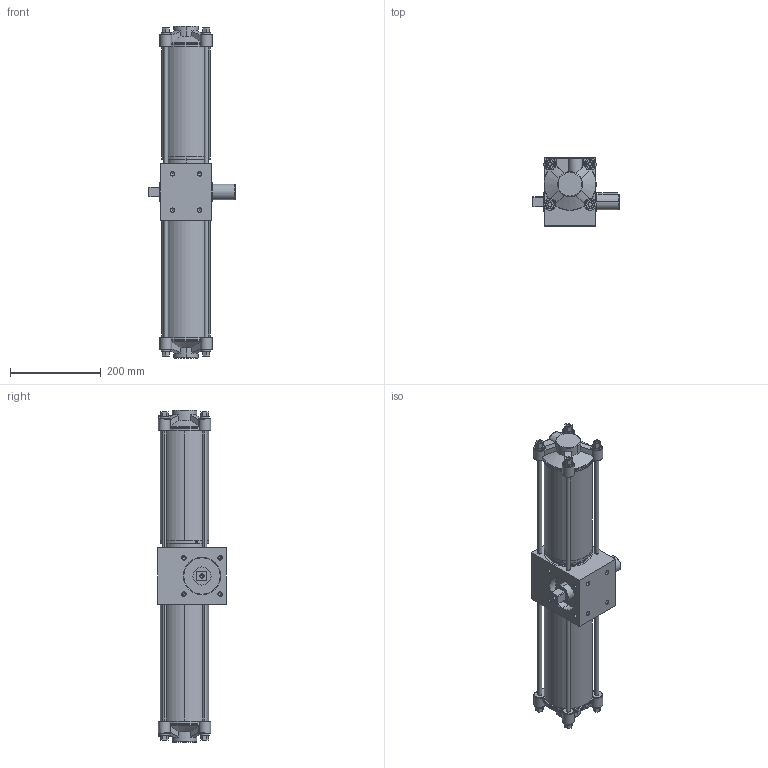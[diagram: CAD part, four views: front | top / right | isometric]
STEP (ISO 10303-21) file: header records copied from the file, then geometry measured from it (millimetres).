
FILE_DESCRIPTION((''),'2;1');
FILE_NAME('0822935229_ASM','2015-04-14T',('mla1hc'),(''),'PRO/ENGINEER BY PARAMETRIC TECHNOLOGY CORPORATION, 2011490','PRO/ENGINEER BY PARAMETRIC TECHNOLOGY CORPORATION, 2011490','');
FILE_SCHEMA(('AUTOMOTIVE_DESIGN_CC2 { 1 2 10303 214 -1 1 5 2 }'));
Length unit declared in the file: millimetre
Products named in the file (4): 0822935229-A; SG-TRR-100-B; SG-TRR-100-C; 0822935229_ASM
Assembly tree (3 placements, depth 2):
  0822935229_ASM
    0822935229-A
    SG-TRR-100-B
    SG-TRR-100-C
Bounding box: 190 x 150 x 731.6 mm (x, y, z)
Volume: 3441695.9 mm3; surface area: 617971.5 mm2
Topology: 3 solids, 3 shells, 494 faces, 1215 edges, 763 vertices
Faces by surface type: plane 178, cylinder 178, cone 128, torus 10
Entity records: 19657 total; most frequent: CARTESIAN_POINT 4093, DIRECTION 2539, ORIENTED_EDGE 2362, EDGE_CURVE 1181, AXIS2_PLACEMENT_3D 975, PRESENTATION_STYLE_ASSIGNMENT 912, STYLED_ITEM 798, CURVE_STYLE 796
